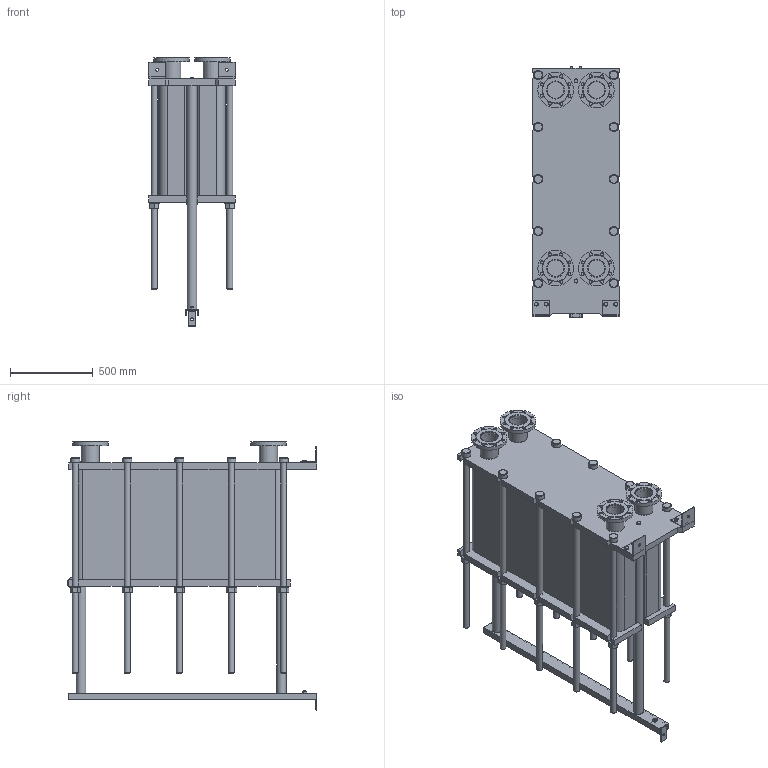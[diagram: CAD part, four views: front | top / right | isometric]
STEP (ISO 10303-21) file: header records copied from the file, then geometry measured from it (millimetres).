
FILE_DESCRIPTION(/* description */ (''),/* implementation_level */ '2;1');
FILE_NAME(/* name */ 'C:\Users\zhuro\Desktop\ENCO\TO\ЭН-04\ЭН-0,5-04-193-1.stp',/* time_stamp */ '2022-06-06T11:01:43+03:00',/* author */ ('zhuro'),/* organization */ (''),/* preprocessor_version */ 'ST-DEVELOPER v18.1',/* originating_system */ 'Autodesk Inventor 2022',/* authorisation */ '');
FILE_SCHEMA (('AUTOMOTIVE_DESIGN { 1 0 10303 214 3 1 1 }'));
Length unit declared in the file: millimetre
Products named in the file (1): ЭН-0,5-04-193-1
Bounding box: 520 x 1510 x 1626.5 mm (x, y, z)
Volume: 408974764.9 mm3; surface area: 10400340.7 mm2
Topology: 45 solids, 45 shells, 668 faces, 1611 edges, 1048 vertices
Faces by surface type: plane 457, cylinder 166, cone 39, torus 6
Full cylindrical faces by diameter (mm): 8 x4, 10 x2, 16 x8, 18 x35, 36 x25, 40 x2, 42 x1, 45 x4, 54 x10, 57 x2, 60 x10, 68 x2, 100 x4, 110 x8, 215 x4
Entity records: 23607 total; most frequent: CARTESIAN_POINT 7348, DIRECTION 3371, ORIENTED_EDGE 3142, EDGE_CURVE 1571, AXIS2_PLACEMENT_3D 1199, VERTEX_POINT 1044, LINE 973, VECTOR 973
